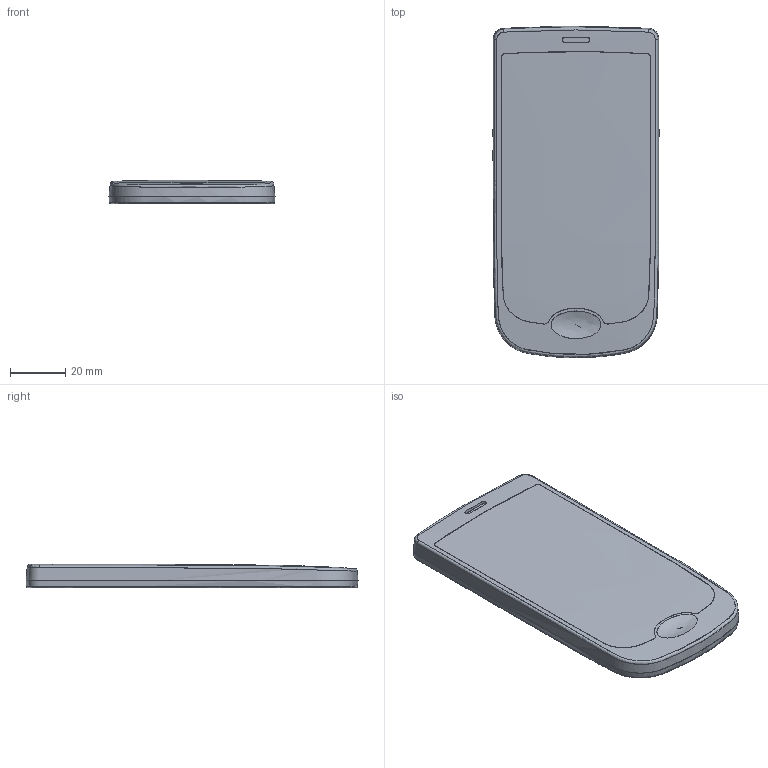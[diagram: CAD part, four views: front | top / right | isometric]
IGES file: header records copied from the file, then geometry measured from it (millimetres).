
Start section: The copyright of this model is belonged to Atsuo Nakajima and  AppliCraft Co., Ltd. The use of this model data is allowed to non profit purpose by author's consent. 151-0063 Tomigaya 1-6-9 A-1 Bldg, 2F Shibuya, Tokyo, Japan TEL 81-3-5790-8431 FAX 81-3-5790-8432 URL:http://www.applicraft.com  http://www.rhino3d.co.jp
Global section: file name: C:\Users\watanabe\Desktop\; native system: Rhinoceros ( Aug 10 2015 ); preprocessor: Trout Lake IGES 012 Aug 10 2015; date: 160907.084655; units: millimetre
Bounding box: 60 x 119.99 x 8.5 mm (x, y, z)
Surface area: 36236.4 mm2 (no closed solid volume)
Topology: 0 solids, 0 shells, 18 faces, 475 edges, 466 vertices
Faces by surface type: bspline 18
